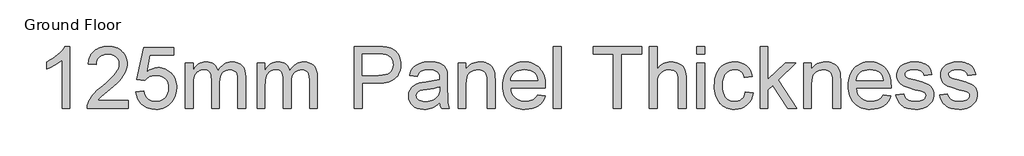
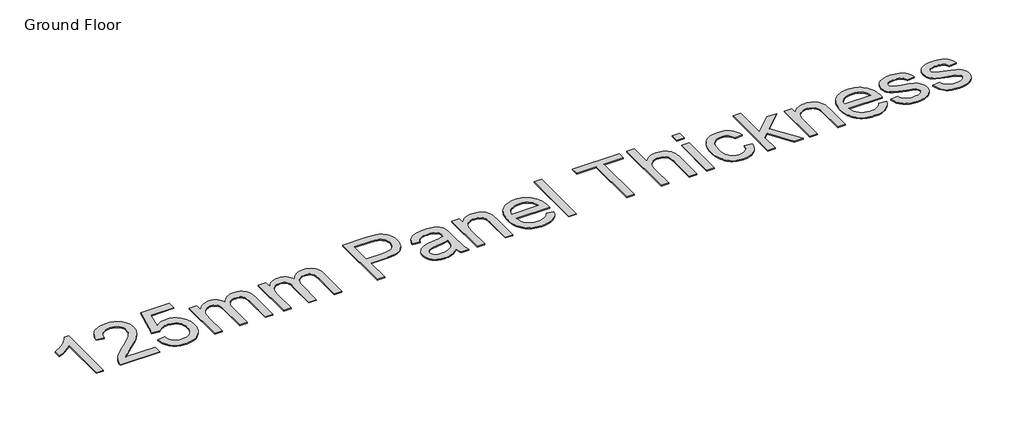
# One storey, part 9 of 12: 1 proxy.
"""IFC4 building model written with IfcOpenShell, lengths in millimetres."""

from ifc_helpers import new_model, si_unit, origin, origin_with_axes, place, context, project, spatial, polyline, outline, extrude, element, save

model = new_model("IFC4")

# Units and contexts
model_context = context("Model", 3, world=origin())
ifc_project = project(units=[si_unit("LENGTHUNIT", "METRE", prefix="MILLI")], contexts=[model_context])

# Site, building, storey
site = spatial("IfcSite", under=ifc_project)
building = spatial("IfcBuilding", under=site)
storey = spatial("IfcBuildingStorey", under=building, Name="Ground Floor", Elevation=0.0)

# Proxy
placement = place(None, origin())
element("IfcBuildingElementProxy", 1, Name="1200mm Arial", ObjectType="1200mm Arial", at=placement, inside=storey, context=model_context, shape_type="SweptSolid", body=[
    extrude(outline(polyline([(87210.8175764, 23010.3942503), (87060.1331111, 23010.3942503), (87060.1331111, 23949.8177131), (86997.22529, 23898.9396332), (86917.394897, 23848.1351297), (86833.5913785, 23803.7317729), (86758.7641807, 23772.0571331), (86758.7641807, 23914.5010416), (86819.9153653, 23945.1640059), (86877.1118185, 23978.8803908), (86930.3535403, 24015.6501962), (86979.6405306, 24055.4734222), (87023.5012615, 24096.5106587), (87060.4642049, 24136.9224959), (87090.529361, 24176.7089337), (87113.6967296, 24215.8699721), (87210.8175764, 24215.8699721), (87210.8175764, 23010.3942503)])), origin_with_axes(), (0.0, 0.0, 1.0), 20.0),
    extrude(outline(polyline([(88340.9510655, 23161.0787155), (88340.9510655, 23010.3942503), (87549.8576231, 23010.3942503), (87553.1685611, 23063.442834), (87566.0444309, 23114.2841257), (87582.470362, 23155.1834065), (87603.2005124, 23195.475682), (87628.2348822, 23235.1609523), (87657.5734713, 23274.2392172), (87692.9821133, 23314.2371871), (87736.2266419, 23356.6815723), (87846.2233584, 23448.9095885), (87935.6554715, 23525.8521078), (88008.8272003, 23593.3400598), (88065.738545, 23651.3734446), (88106.3895054, 23699.952262), (88134.8451777, 23743.5094903), (88155.170658, 23786.4781073), (88167.3659461, 23828.8581131), (88171.4310422, 23870.6495078), (88167.5958724, 23909.966896), (88156.090363, 23946.102105), (88136.914514, 23979.0551347), (88110.0683254, 24008.8259852), (88077.0417193, 24033.4832759), (88039.3246177, 24051.0956264), (87996.9170207, 24061.6630367), (87949.8189283, 24065.1855068), (87900.2008442, 24061.7458102), (87855.8250785, 24051.4267202), (87816.6916313, 24034.2282369), (87782.8005025, 24010.1503604), (87755.3840968, 23980.0024309), (87735.6748189, 23944.5937888), (87723.6726688, 23903.9244342), (87719.3776465, 23857.9943672), (87568.6931813, 23876.8299253), (87581.6518245, 23954.6185732), (87592.1111695, 23989.8294786), (87605.2238634, 24022.5847718), (87620.9899061, 24052.8844526), (87639.4092978, 24080.7285211), (87660.4820383, 24106.1169773), (87684.2081278, 24129.0498212), (87710.3300487, 24149.3982941), (87738.5902837, 24167.0336372), (87768.9888328, 24181.9558506), (87801.525696, 24194.1649343), (87873.0143647, 24210.4437126), (87953.0562898, 24215.8699721), (88033.8155848, 24209.8367073), (88070.863601, 24202.2951264), (88105.6905296, 24191.7369132), (88138.2963707, 24178.1620676), (88168.6811243, 24161.5705896), (88196.8447902, 24141.9624792), (88222.7873687, 24119.3377365), (88246.0674012, 24094.4781107), (88266.2434294, 24068.165351), (88283.3154532, 24040.3994574), (88297.2834727, 24011.1804299), (88308.1474879, 23980.5082686), (88315.9074987, 23948.3829734), (88320.5635052, 23914.8045443), (88322.1155074, 23879.7729813), (88320.4416443, 23843.58259), (88315.4200551, 23807.7048984), (88307.0507397, 23772.1399065), (88295.3336981, 23736.8876143), (88279.7263045, 23701.3318195), (88259.6859328, 23664.8563197), (88206.3062553, 23589.1462051), (88169.4720705, 23547.1616724), (88121.2151498, 23498.7575989), (87990.4331005, 23382.6908294), (87817.0871044, 23237.7453233), (87779.4895645, 23199.522384), (87749.1025117, 23161.0787155), (88340.9510655, 23161.0787155)])), origin_with_axes(), (0.0, 0.0, 1.0), 20.0),
    extrude(outline(polyline([(88491.6355308, 23330.5987389), (88642.319996, 23349.434297), (88653.577185, 23300.9934353), (88669.984722, 23258.9721144), (88691.5426069, 23223.3703343), (88718.2508398, 23194.1880951), (88750.0542383, 23171.4621848), (88786.8976201, 23155.2293918), (88828.7809852, 23145.4897159), (88875.7043337, 23142.2431573), (88933.093925, 23146.7589088), (88983.7144875, 23160.3061633), (89027.5660213, 23182.8849208), (89064.6485265, 23214.4951812), (89094.1342684, 23253.5734461), (89115.1955126, 23298.5562171), (89127.8322591, 23349.4434941), (89132.044508, 23406.2352771), (89128.0989736, 23459.9092602), (89116.2623704, 23507.6235549), (89096.5346984, 23549.3781614), (89068.9159576, 23585.1730795), (89033.3141775, 23613.8862693), (88989.6373876, 23634.3956905), (88937.885588, 23646.7013432), (88878.0587785, 23650.8032275), (88839.7714599, 23649.1661526), (88804.9606261, 23644.254928), (88773.6262771, 23636.0695536), (88745.768413, 23624.6100294), (88698.4955767, 23594.5172822), (88661.1555541, 23556.6254367), (88510.4710889, 23575.4609949), (88642.319996, 24197.0344139), (89226.2222987, 24197.0344139), (89226.2222987, 24046.3499487), (88764.1625128, 24046.3499487), (88699.7095872, 23714.3732362), (88752.8869296, 23752.4858109), (88807.351859, 23779.7090786), (88863.1043754, 23796.0430392), (88920.1444788, 23801.4876927), (88957.5833695, 23799.800034), (88993.5277397, 23794.7370581), (89027.9775893, 23786.2987648), (89060.9329183, 23774.4851542), (89092.3937267, 23759.2962264), (89122.3600144, 23740.7319812), (89150.8317816, 23718.7924187), (89177.8090282, 23693.4775389), (89202.3996403, 23665.5093102), (89223.7115041, 23635.6097011), (89241.7446197, 23603.7787114), (89256.4989869, 23570.0163413), (89267.9746059, 23534.3225907), (89276.1714766, 23496.6974597), (89281.0895991, 23457.1409482), (89282.7289732, 23415.6530562), (89276.8244672, 23337.5884968), (89269.4438346, 23300.5979622), (89259.1109491, 23264.9685909), (89245.8258106, 23230.7003831), (89229.588419, 23197.7933386), (89210.3987744, 23166.2474575), (89188.2568768, 23136.0627398), (89158.2561001, 23102.1946036), (89125.6433613, 23072.8422189), (89090.4186602, 23048.0055857), (89052.581997, 23027.684704), (89012.1333716, 23011.8795738), (88969.0727841, 23000.5901951), (88923.4002344, 22993.8165679), (88875.1157225, 22991.5586921), (88797.3546658, 22997.3620306), (88761.2953325, 23004.6162037), (88727.1167959, 23014.772046), (88694.819056, 23027.8295576), (88664.4021128, 23043.7887384), (88635.8659662, 23062.6495884), (88609.2106164, 23084.4121077), (88584.8729232, 23108.5704585), (88563.2897464, 23134.618803), (88544.461086, 23162.5571413), (88528.3869421, 23192.3854733), (88515.0673146, 23224.103799), (88504.5022035, 23257.7121186), (88491.6355308, 23330.5987389)])), origin_with_axes(), (0.0, 0.0, 1.0), 20.0),
    extrude(outline(polyline([(89452.2489966, 23010.3942503), (89452.2489966, 23895.6654835), (89602.9334618, 23895.6654835), (89602.9334618, 23749.9842134), (89623.9763119, 23785.2548997), (89648.2565236, 23816.9019483), (89675.7740968, 23844.9253593), (89706.5290316, 23869.3251326), (89740.0246873, 23889.0895928), (89775.7644231, 23903.2070644), (89813.7482391, 23911.6775473), (89853.9761353, 23914.5010416), (89897.9564278, 23911.622365), (89937.7796538, 23902.9863352), (89973.4458132, 23888.5929521), (90004.9549061, 23868.4422158), (90032.214962, 23843.1043434), (90055.1340103, 23813.1495519), (90073.712051, 23778.5778414), (90087.9490842, 23739.3892119), (90114.4457849, 23780.431047), (90142.8738661, 23816.0006374), (90173.2333278, 23846.0979831), (90205.5241699, 23870.7230842), (90239.7463925, 23889.8759406), (90275.8999956, 23903.5565523), (90313.9849791, 23911.7649193), (90354.0013432, 23914.5010416), (90414.3247933, 23909.9485019), (90467.2722095, 23896.2908828), (90512.8435916, 23873.5281844), (90551.0389398, 23841.6604066), (90567.2142512, 23822.2201424), (90581.2328545, 23800.3196674), (90602.7999365, 23749.1380848), (90615.7401857, 23688.1156588), (90620.0536021, 23617.2523895), (90620.0536021, 23010.3942503), (90469.3691368, 23010.3942503), (90469.3691368, 23552.5051584), (90465.8742579, 23627.66345), (90455.389621, 23678.3208007), (90446.9835174, 23696.5953388), (90435.7447225, 23713.0120729), (90421.6732362, 23727.5710028), (90404.7690585, 23740.2721287), (90385.6483918, 23750.5728246), (90364.9274384, 23757.9304645), (90318.6846716, 23763.8165764), (90275.982769, 23760.0457859), (90237.0516569, 23748.7334146), (90201.8913352, 23729.8794623), (90170.501804, 23703.4839292), (90144.6856849, 23668.7742629), (90126.2455999, 23624.9779114), (90115.1815489, 23572.0948746), (90111.4935319, 23510.1251525), (90111.4935319, 23010.3942503), (89960.8090667, 23010.3942503), (89960.8090667, 23569.2805773), (89958.6293659, 23614.9347329), (89952.0902634, 23654.4820474), (89941.1917593, 23687.9225208), (89925.9338536, 23715.256153), (89905.7095409, 23736.5013382), (89879.911816, 23751.6764705), (89848.5406788, 23760.7815499), (89811.5961295, 23763.8165764), (89782.000023, 23761.7932254), (89753.5443506, 23755.7231725), (89726.2291125, 23745.6064176), (89700.0543085, 23731.4429608), (89676.2155552, 23713.3799548), (89655.9084691, 23691.5645525), (89639.1330501, 23665.9967539), (89625.8892983, 23636.6765589), (89615.8461198, 23602.040469), (89608.6724209, 23560.5249859), (89604.3682016, 23512.1301094), (89602.9334618, 23456.8558396), (89602.9334618, 23010.3942503), (89452.2489966, 23010.3942503)])), origin_with_axes(), (0.0, 0.0, 1.0), 20.0),
    extrude(outline(polyline([(90846.0802999, 23010.3942503), (90846.0802999, 23895.6654835), (90996.7647651, 23895.6654835), (90996.7647651, 23749.9842134), (91017.8076152, 23785.2548997), (91042.0878269, 23816.9019483), (91069.6054002, 23844.9253593), (91100.360335, 23869.3251326), (91133.8559906, 23889.0895928), (91169.5957265, 23903.2070644), (91207.5795425, 23911.6775473), (91247.8074386, 23914.5010416), (91291.7877312, 23911.622365), (91331.6109571, 23902.9863352), (91367.2771166, 23888.5929521), (91398.7862095, 23868.4422158), (91426.0462653, 23843.1043434), (91448.9653136, 23813.1495519), (91467.5433544, 23778.5778414), (91481.7803876, 23739.3892119), (91508.2770883, 23780.431047), (91536.7051694, 23816.0006374), (91567.0646311, 23846.0979831), (91599.3554732, 23870.7230842), (91633.5776958, 23889.8759406), (91669.7312989, 23903.5565523), (91707.8162825, 23911.7649193), (91747.8326465, 23914.5010416), (91808.1560966, 23909.9485019), (91861.1035128, 23896.2908828), (91906.6748949, 23873.5281844), (91944.8702431, 23841.6604066), (91961.0455546, 23822.2201424), (91975.0641578, 23800.3196674), (91996.6312398, 23749.1380848), (92009.571489, 23688.1156588), (92013.8849054, 23617.2523895), (92013.8849054, 23010.3942503), (91863.2004402, 23010.3942503), (91863.2004402, 23552.5051584), (91859.7055612, 23627.66345), (91849.2209243, 23678.3208007), (91840.8148208, 23696.5953388), (91829.5760258, 23713.0120729), (91815.5045395, 23727.5710028), (91798.6003618, 23740.2721287), (91779.4796951, 23750.5728246), (91758.7587417, 23757.9304645), (91712.5159749, 23763.8165764), (91669.8140724, 23760.0457859), (91630.8829602, 23748.7334146), (91595.7226385, 23729.8794623), (91564.3331073, 23703.4839292), (91538.5169883, 23668.7742629), (91520.0769033, 23624.9779114), (91509.0128523, 23572.0948746), (91505.3248353, 23510.1251525), (91505.3248353, 23010.3942503), (91354.64037, 23010.3942503), (91354.64037, 23569.2805773), (91352.4606692, 23614.9347329), (91345.9215667, 23654.4820474), (91335.0230626, 23687.9225208), (91319.7651569, 23715.256153), (91299.5408442, 23736.5013382), (91273.7431193, 23751.6764705), (91242.3719822, 23760.7815499), (91205.4274328, 23763.8165764), (91175.8313263, 23761.7932254), (91147.3756539, 23755.7231725), (91120.0604158, 23745.6064176), (91093.8856119, 23731.4429608), (91070.0468586, 23713.3799548), (91049.7397724, 23691.5645525), (91032.9643534, 23665.9967539), (91019.7206016, 23636.6765589), (91009.6774232, 23602.040469), (91002.5037242, 23560.5249859), (90998.1995049, 23512.1301094), (90996.7647651, 23456.8558396), (90996.7647651, 23010.3942503), (90846.0802999, 23010.3942503)])), origin_with_axes(), (0.0, 0.0, 1.0), 20.0),
    extrude(outline(polyline([(92729.6361152, 23010.3942503), (92729.6361152, 24215.8699721), (93176.3920101, 24215.8699721), (93280.4290384, 24213.0004925), (93356.507035, 24204.3920538), (93398.4363854, 24195.3513538), (93436.8156745, 24182.9445335), (93471.6449024, 24167.1715929), (93502.9240691, 24148.0325321), (93530.9842682, 24125.1318779), (93556.1565938, 24098.0741572), (93578.4410456, 24066.8593699), (93597.8376238, 24031.4875161), (93613.546185, 23993.126621), (93624.7665859, 23952.9447101), (93631.4988264, 23910.9417833), (93633.7429066, 23867.1178406), (93627.6820507, 23793.1183773), (93620.1059808, 23758.3397332), (93609.4994831, 23725.0418141), (93595.8625574, 23693.22462), (93579.1952037, 23662.888151), (93559.4974221, 23634.032407), (93536.7692126, 23606.657388), (93510.0862717, 23581.6873976), (93478.5242957, 23560.0467393), (93442.0832849, 23541.7354129), (93400.763239, 23526.7534187), (93354.5641582, 23515.1007565), (93303.4860424, 23506.7774264), (93247.5288917, 23501.7834283), (93186.692706, 23500.1187622), (92880.3205804, 23500.1187622), (92880.3205804, 23010.3942503), (92729.6361152, 23010.3942503)]), holes=[polyline([(92880.3205804, 23650.8032275), (93195.5218739, 23650.8032275), (93267.9946269, 23654.2613182), (93329.1366145, 23664.6355905), (93378.9478367, 23681.9260443), (93417.4282934, 23706.1326795), (93446.1414831, 23736.6117028), (93466.6509043, 23772.7193207), (93478.9565571, 23814.455533), (93483.0584413, 23861.8203399), (93480.6396172, 23896.9898586), (93473.3831449, 23929.510627), (93461.2890243, 23959.382645), (93444.3572554, 23986.6059127), (93423.4891493, 24010.2975132), (93399.5860166, 24029.5745297), (93372.6478575, 24044.4369623), (93342.674672, 24054.884811), (93284.5493167, 24062.6103329), (93191.9902067, 24065.1855068), (92880.3205804, 24065.1855068), (92880.3205804, 23650.8032275)])]), origin_with_axes(), (0.0, 0.0, 1.0), 20.0),
    extrude(outline(polyline([(94387.1652327, 23123.4075992), (94351.4346939, 23089.8751553), (94315.1707262, 23061.6770004), (94278.3733296, 23038.8131344), (94241.0425042, 23021.2835573), (94202.7551855, 23008.2789288), (94163.0883094, 22998.9899084), (94122.0418758, 22993.4164962), (94079.6158847, 22991.5586921), (94012.5234058, 22996.0284584), (93953.6898778, 23009.4377571), (93903.1153005, 23031.7865883), (93860.799674, 23063.074952), (93827.3867918, 23101.3162854), (93803.5204473, 23144.5240257), (93789.2006407, 23192.698173), (93784.4273718, 23245.8387272), (93786.2299936, 23277.7892785), (93791.6378589, 23308.30509), (93800.6509678, 23337.3861617), (93813.2693202, 23365.0324936), (93828.8215315, 23390.6370805), (93846.6362172, 23413.592917), (93866.713377, 23433.9000031), (93889.0530112, 23451.5583389), (93938.9010216, 23480.2531345), (93994.5615674, 23501.001679), (94048.7873735, 23512.5531737), (94124.9389465, 23523.6632099), (94279.0079261, 23547.5019632), (94338.4944447, 23560.9664442), (94386.2823159, 23575.4609949), (94387.1652327, 23609.0118328), (94384.5716646, 23645.5425149), (94376.7909604, 23676.2606615), (94363.8231201, 23701.1662726), (94345.6681436, 23720.2593482), (94314.2878094, 23739.3156355), (94276.0648701, 23752.9272693), (94230.9993257, 23761.0942496), (94179.0911762, 23763.8165764), (94130.8250584, 23762.0047576), (94089.3279694, 23756.5693011), (94054.599909, 23747.5102069), (94026.6408774, 23734.8274752), (94003.6666468, 23717.5278243), (93983.8929896, 23694.6179731), (93967.3199057, 23666.0979214), (93953.9473952, 23631.9676693), (93803.2629299, 23650.8032275), (93814.7316511, 23694.2133029), (93829.4193398, 23733.2087944), (93847.3259959, 23767.7897019), (93868.4516195, 23797.9560255), (93893.7067184, 23824.3147705), (93924.0018007, 23847.4729421), (93959.3368664, 23867.4305403), (93999.7119154, 23884.1875652), (94044.3084102, 23897.4497111), (94092.3078135, 23906.9226725), (94143.7101253, 23912.6064493), (94198.5153455, 23914.5010416), (94252.0881611, 23912.8271785), (94300.38187, 23907.8055893), (94343.3964723, 23899.4362739), (94381.131968, 23887.7192324), (94413.9010567, 23873.4730021), (94442.0164382, 23857.5161206), (94465.4781124, 23839.8485877), (94484.2860794, 23820.4704036), (94499.5347881, 23798.9033217), (94512.3186874, 23774.6690952), (94530.492058, 23718.199209), (94536.0102879, 23666.1071185), (94537.8496979, 23586.3503019), (94537.8496979, 23398.8776372), (94539.7626843, 23235.5748195), (94545.5016434, 23137.0928094), (94556.8324088, 23072.3823665), (94575.5208142, 23010.3942503), (94424.836349, 23010.3942503), (94411.4454444, 23035.5573787), (94400.7032901, 23062.7806464), (94387.1652327, 23123.4075992)]), holes=[polyline([(94387.1652327, 23424.7765296), (94341.6214417, 23411.7351129), (94285.9241076, 23399.6869776), (94144.0688103, 23378.570551), (94065.8938863, 23367.0190564), (94014.4271952, 23354.1431866), (93980.6924162, 23337.441344), (93955.7132287, 23314.4119311), (93940.2621849, 23286.8207814), (93935.111837, 23256.4337286), (93937.9169372, 23233.0180396), (93946.3322379, 23211.6257016), (93960.3577389, 23192.2567146), (93979.9934404, 23174.9110785), (94005.0554013, 23160.618863), (94035.3596807, 23150.4101376), (94070.9062785, 23144.2849024), (94111.6951947, 23142.2431573), (94153.3394365, 23144.4964346), (94192.6292336, 23151.2562662), (94229.5645859, 23162.5226523), (94264.1454935, 23178.2955929), (94295.3418867, 23197.2691068), (94322.1236959, 23218.1372129), (94344.4909212, 23240.8999114), (94362.4435626, 23265.5572021), (94372.8730172, 23287.6301218), (94380.3226276, 23314.4119311), (94384.7923938, 23345.9026299), (94386.2823159, 23382.1022182), (94387.1652327, 23424.7765296)])]), origin_with_axes(), (0.0, 0.0, 1.0), 20.0),
    extrude(outline(polyline([(94745.0408376, 23010.3942503), (94745.0408376, 23895.6654835), (94895.7253028, 23895.6654835), (94895.7253028, 23772.0571331), (94920.5849286, 23805.4424241), (94948.0749107, 23834.3763431), (94978.1952491, 23858.8588898), (95010.9459437, 23878.8900645), (95046.3269946, 23894.469867), (95084.3384017, 23905.5982973), (95124.9801652, 23912.2753555), (95168.2522848, 23914.5010416), (95206.1717215, 23912.7076169), (95242.5276597, 23907.3273427), (95277.3200994, 23898.3602191), (95310.5490406, 23885.806246), (95340.9544875, 23870.3368081), (95367.2764442, 23852.62329), (95389.5149108, 23832.6656918), (95407.6698873, 23810.4640134), (95435.0770959, 23759.4387806), (95452.8457963, 23699.6579564), (95458.8054846, 23642.4890944), (95460.7920474, 23553.9766863), (95460.7920474, 23010.3942503), (95310.1075822, 23010.3942503), (95310.1075822, 23533.6696002), (95305.7665746, 23611.5870068), (95300.3403152, 23642.1028183), (95292.743552, 23666.9900353), (95282.3968709, 23687.9501119), (95268.7208577, 23706.6845025), (95251.7155125, 23723.1932071), (95231.3808352, 23737.4762255), (95208.4158017, 23749.000129), (95183.5193876, 23757.2314887), (95156.6915931, 23762.1703045), (95127.9324182, 23763.8165764), (95082.177095, 23760.1193623), (95039.6775275, 23749.0277202), (95000.4337157, 23730.5416499), (94964.4456595, 23704.6611516), (94948.3393259, 23688.2122279), (94934.3805034, 23668.4431691), (94922.5691921, 23645.3539754), (94912.905392, 23618.9446467), (94900.0203251, 23556.1655842), (94895.7253028, 23480.1059817), (94895.7253028, 23010.3942503), (94745.0408376, 23010.3942503)])), origin_with_axes(), (0.0, 0.0, 1.0), 20.0),
    extrude(outline(polyline([(96287.7907726, 23274.0920644), (96435.5321818, 23255.2565063), (96412.879848, 23196.0826873), (96382.2996571, 23143.9354145), (96343.7916093, 23098.8146878), (96297.3557044, 23060.7205072), (96243.4701892, 23030.4622131), (96182.6133101, 23008.8491459), (96114.7850673, 22995.8813056), (96039.9854606, 22991.5586921), (95991.9630647, 22993.423394), (95946.4882515, 22999.0174996), (95903.5610212, 23008.3410089), (95863.1813737, 23021.3939219), (95825.349309, 23038.1762387), (95790.0648272, 23058.6879592), (95757.3279281, 23082.9290834), (95727.1386119, 23110.8996113), (95700.0303074, 23142.2362595), (95676.5364435, 23176.5757445), (95656.6570202, 23213.9180663), (95640.3920374, 23254.2632249), (95627.7414953, 23297.6112202), (95618.7053938, 23343.9620523), (95613.2837329, 23393.3157213), (95611.4765126, 23445.672227), (95613.302127, 23499.8106611), (95618.7789702, 23550.8312953), (95627.9070422, 23598.7341296), (95640.686343, 23643.519164), (95657.1168726, 23685.1863984), (95677.1986311, 23723.735833), (95700.9316183, 23759.1674677), (95728.3158343, 23791.4813024), (95758.6109166, 23820.3140538), (95791.0765027, 23845.3024383), (95825.7125925, 23866.446456), (95862.5191861, 23883.7461068), (95901.4962835, 23897.2013908), (95942.6438847, 23906.8123079), (95985.9619896, 23912.5788582), (96031.4505983, 23914.5010416), (96075.4515842, 23912.5834567), (96117.3970294, 23906.830702), (96157.286934, 23897.2427775), (96195.121298, 23883.8196832), (96230.9001213, 23866.5614191), (96264.6234039, 23845.4679852), (96296.2911459, 23820.5393815), (96325.9033473, 23791.775608), (96352.7012513, 23759.5353497), (96375.9261015, 23724.1772914), (96395.5778979, 23685.7014332), (96411.6566403, 23644.1077752), (96424.1623289, 23599.3963172), (96433.0949636, 23551.5670593), (96438.4545444, 23500.6200015), (96440.2410714, 23446.5551437), (96439.3581546, 23405.9409715), (95762.1609778, 23405.9409715), (95770.8889782, 23345.8106594), (95788.2438113, 23293.1483518), (95814.2254772, 23247.9540486), (95848.8339759, 23210.22775), (95890.156321, 23180.4844907), (95936.2795262, 23159.2393055), (95987.2035913, 23146.4921944), (96042.9285166, 23142.2431573), (96084.6095466, 23144.211326), (96123.1267915, 23150.115832), (96158.4802513, 23159.9566754), (96190.6699258, 23173.7338561), (96219.6958152, 23191.8152562), (96245.5579195, 23214.5687576), (96268.2562386, 23241.9943603), (96287.7907726, 23274.0920644)]), holes=[polyline([(95762.1609778, 23556.6254367), (96289.5566061, 23556.6254367), (96281.8126901, 23599.2629599), (96269.1759436, 23636.2351005), (96251.6463665, 23667.5418582), (96229.2239589, 23693.1832333), (96188.1315401, 23724.0853209), (96141.3737385, 23746.1582406), (96088.9505542, 23759.4019924), (96030.8619871, 23763.8165764), (95977.8777828, 23760.2941063), (95929.2897683, 23749.726696), (95885.0979436, 23732.1143455), (95845.3023088, 23707.4570547), (95811.9078206, 23676.895258), (95786.9194361, 23641.5693894), (95770.3371552, 23601.479449), (95762.1609778, 23556.6254367)])]), origin_with_axes(), (0.0, 0.0, 1.0), 20.0),
    extrude(outline(polyline([(96590.9255366, 23010.3942503), (96590.9255366, 24215.8699721), (96741.6100018, 24215.8699721), (96741.6100018, 23010.3942503), (96590.9255366, 23010.3942503)])), origin_with_axes(), (0.0, 0.0, 1.0), 20.0),
    extrude(outline(polyline([(97758.7301421, 23010.3942503), (97758.7301421, 24065.1855068), (97363.1834209, 24065.1855068), (97363.1834209, 24215.8699721), (98304.9613285, 24215.8699721), (98304.9613285, 24065.1855068), (97909.4146073, 24065.1855068), (97909.4146073, 23010.3942503), (97758.7301421, 23010.3942503)])), origin_with_axes(), (0.0, 0.0, 1.0), 20.0),
    extrude(outline(polyline([(98455.6457937, 23010.3942503), (98455.6457937, 24215.8699721), (98606.330259, 24215.8699721), (98606.330259, 23772.6457443), (98633.1534549, 23805.8930796), (98661.6781051, 23834.7074369), (98691.9042096, 23859.0888161), (98723.8317682, 23879.0372173), (98757.4607811, 23894.5526404), (98792.7912482, 23905.6350855), (98829.8231696, 23912.2845526), (98868.5565451, 23914.5010416), (98915.6638346, 23912.0822175), (98959.5705507, 23904.8257451), (99000.2766935, 23892.7316245), (99037.7822629, 23875.7998557), (99071.1307658, 23854.6006557), (99099.3657089, 23829.7042417), (99122.4870923, 23801.1106136), (99140.494916, 23768.8197715), (99154.0145793, 23730.8359555), (99163.6714816, 23685.1634058), (99169.4656231, 23631.8021224), (99171.3970035, 23570.7521053), (99171.3970035, 23010.3942503), (99020.7125383, 23010.3942503), (99020.7125383, 23555.1539087), (99017.7143001, 23606.0319887), (99008.7195853, 23649.4788523), (98993.728394, 23685.4944996), (98972.7407262, 23714.0789306), (98946.2532225, 23735.8391507), (98914.7625237, 23751.3821649), (98878.2686298, 23760.7079735), (98836.7715407, 23763.8165764), (98804.4439104, 23761.719649), (98773.0911674, 23755.4288669), (98742.7133116, 23744.94423), (98713.3103432, 23730.2657384), (98686.4733516, 23712.0003974), (98663.7934266, 23690.7552121), (98645.2705681, 23666.5301828), (98630.9047762, 23639.3253092), (98620.1534249, 23607.8897927), (98612.4738883, 23570.9728345), (98607.8661663, 23528.5744346), (98606.330259, 23480.6945929), (98606.330259, 23010.3942503), (98455.6457937, 23010.3942503)])), origin_with_axes(), (0.0, 0.0, 1.0), 20.0),
    extrude(outline(polyline([(99378.5881432, 23010.3942503), (99378.5881432, 23895.6654835), (99529.2726085, 23895.6654835), (99529.2726085, 23010.3942503), (99378.5881432, 23010.3942503)])), origin_with_axes(), (0.0, 0.0, 1.0), 20.0),
    extrude(outline(polyline([(99378.5881432, 24065.1855068), (99378.5881432, 24215.8699721), (99529.2726085, 24215.8699721), (99529.2726085, 24065.1855068), (99378.5881432, 24065.1855068)])), origin_with_axes(), (0.0, 0.0, 1.0), 20.0),
    extrude(outline(polyline([(100320.3660509, 23330.5987389), (100471.0505161, 23311.7631807), (100454.6613732, 23240.6607881), (100429.0383923, 23177.7437699), (100394.1815732, 23123.012126), (100350.0909161, 23076.4658566), (100298.624225, 23039.3189721), (100241.6393039, 23012.7854832), (100179.1361529, 22996.8653899), (100111.114772, 22991.5586921), (100067.7667767, 22993.4095984), (100026.6030807, 22998.9623173), (99987.623684, 23008.2168487), (99950.8285867, 23021.1731927), (99916.2177888, 23037.8313493), (99883.7912902, 23058.1913185), (99853.5490909, 23082.2531002), (99825.491191, 23110.0166946), (99800.2108001, 23141.2383796), (99778.301128, 23175.6744336), (99759.7621747, 23213.3248566), (99744.5939402, 23254.1896485), (99732.7964245, 23298.2688093), (99724.3696275, 23345.562339), (99719.3135494, 23396.0702377), (99717.62819, 23449.7925053), (99720.5068666, 23519.073882), (99729.1428964, 23583.8854925), (99743.5362795, 23644.2273368), (99763.6870158, 23700.0994148), (99789.733061, 23750.3796865), (99821.812371, 23793.9461118), (99859.9249457, 23830.7986907), (99904.0707851, 23860.9374231), (99952.2541295, 23884.3715062), (100002.4792189, 23901.110137), (100054.7460533, 23911.1533155), (100109.0546329, 23914.5010416), (100175.9079884, 23909.9025167), (100236.3785914, 23896.1069419), (100290.4664417, 23873.1143172), (100338.1715395, 23840.9246426), (100378.6845442, 23800.2736821), (100411.1961155, 23751.8971997), (100435.7062534, 23695.7951955), (100452.214958, 23631.9676693), (100301.5304927, 23613.1321112), (100289.7674659, 23648.329221), (100274.1968605, 23678.8726237), (100254.8186764, 23704.7623191), (100231.6329136, 23725.9983073), (100205.2281834, 23742.5438), (100176.193097, 23754.3620091), (100144.5276542, 23761.4529346), (100110.2318552, 23763.8165764), (100059.0318786, 23759.1628691), (100012.8534911, 23745.2017474), (99971.6966929, 23721.9332112), (99935.5614839, 23689.3572606), (99919.8000397, 23669.3904653), (99906.1401214, 23646.7197373), (99885.1248624, 23593.2664834), (99872.515707, 23528.9974989), (99868.3126552, 23453.9127836), (99872.4237365, 23377.6968313), (99884.7569804, 23312.6828857), (99905.3123869, 23258.8709469), (99918.6734011, 23236.16573), (99934.0899559, 23216.2610148), (99969.507795, 23183.8782021), (100009.9840116, 23160.7476217), (100055.5186055, 23146.8692734), (100106.1115769, 23142.2431573), (100146.882099, 23145.131031), (100184.1393481, 23153.794652), (100217.8833241, 23168.2340203), (100248.114027, 23188.4491359), (100273.9853283, 23214.6607281), (100294.6510994, 23247.089526), (100310.1113403, 23285.7355296), (100320.3660509, 23330.5987389)])), origin_with_axes(), (0.0, 0.0, 1.0), 20.0),
    extrude(outline(polyline([(100602.8994232, 23010.3942503), (100602.8994232, 24215.8699721), (100753.5838884, 24215.8699721), (100753.5838884, 23568.103355), (101091.4467128, 23895.6654835), (101299.8150748, 23895.6654835), (100957.8319721, 23563.9830766), (101318.650633, 23010.3942503), (101142.6558865, 23010.3942503), (100849.8218183, 23459.2102844), (100753.5838884, 23365.9154104), (100753.5838884, 23010.3942503), (100602.8994232, 23010.3942503)])), origin_with_axes(), (0.0, 0.0, 1.0), 20.0),
    extrude(outline(polyline([(101450.4995401, 23010.3942503), (101450.4995401, 23895.6654835), (101601.1840053, 23895.6654835), (101601.1840053, 23772.0571331), (101626.0436311, 23805.4424241), (101653.5336132, 23834.3763431), (101683.6539516, 23858.8588898), (101716.4046462, 23878.8900645), (101751.7856971, 23894.469867), (101789.7971042, 23905.5982973), (101830.4388676, 23912.2753555), (101873.7109873, 23914.5010416), (101911.630424, 23912.7076169), (101947.9863621, 23907.3273427), (101982.7788018, 23898.3602191), (102016.0077431, 23885.806246), (102046.41319, 23870.3368081), (102072.7351467, 23852.62329), (102094.9736133, 23832.6656918), (102113.1285898, 23810.4640134), (102140.5357984, 23759.4387806), (102158.3044988, 23699.6579564), (102164.2641871, 23642.4890944), (102166.2507499, 23553.9766863), (102166.2507499, 23010.3942503), (102015.5662847, 23010.3942503), (102015.5662847, 23533.6696002), (102011.2252771, 23611.5870068), (102005.7990177, 23642.1028183), (101998.2022545, 23666.9900353), (101987.8555734, 23687.9501119), (101974.1795602, 23706.6845025), (101957.174215, 23723.1932071), (101936.8395377, 23737.4762255), (101913.8745041, 23749.000129), (101888.9780901, 23757.2314887), (101862.1502956, 23762.1703045), (101833.3911206, 23763.8165764), (101787.6357975, 23760.1193623), (101745.13623, 23749.0277202), (101705.8924182, 23730.5416499), (101669.904362, 23704.6611516), (101653.7980284, 23688.2122279), (101639.8392059, 23668.4431691), (101628.0278946, 23645.3539754), (101618.3640945, 23618.9446467), (101605.4790276, 23556.1655842), (101601.1840053, 23480.1059817), (101601.1840053, 23010.3942503), (101450.4995401, 23010.3942503)])), origin_with_axes(), (0.0, 0.0, 1.0), 20.0),
    extrude(outline(polyline([(102993.249475, 23274.0920644), (103140.9908843, 23255.2565063), (103118.3385505, 23196.0826873), (103087.7583596, 23143.9354145), (103049.2503118, 23098.8146878), (103002.8144069, 23060.7205072), (102948.9288917, 23030.4622131), (102888.0720126, 23008.8491459), (102820.2437698, 22995.8813056), (102745.4441631, 22991.5586921), (102697.4217671, 22993.423394), (102651.946954, 22999.0174996), (102609.0197237, 23008.3410089), (102568.6400762, 23021.3939219), (102530.8080115, 23038.1762387), (102495.5235297, 23058.6879592), (102462.7866306, 23082.9290834), (102432.5973144, 23110.8996113), (102405.4890099, 23142.2362595), (102381.995146, 23176.5757445), (102362.1157226, 23213.9180663), (102345.8507399, 23254.2632249), (102333.2001978, 23297.6112202), (102324.1640963, 23343.9620523), (102318.7424354, 23393.3157213), (102316.9352151, 23445.672227), (102318.7608295, 23499.8106611), (102324.2376727, 23550.8312953), (102333.3657447, 23598.7341296), (102346.1450455, 23643.519164), (102362.5755751, 23685.1863984), (102382.6573335, 23723.735833), (102406.3903208, 23759.1674677), (102433.7745368, 23791.4813024), (102464.0696191, 23820.3140538), (102496.5352052, 23845.3024383), (102531.171295, 23866.446456), (102567.9778886, 23883.7461068), (102606.954986, 23897.2013908), (102648.1025872, 23906.8123079), (102691.4206921, 23912.5788582), (102736.9093008, 23914.5010416), (102780.9102867, 23912.5834567), (102822.8557319, 23906.830702), (102862.7456365, 23897.2427775), (102900.5800005, 23883.8196832), (102936.3588237, 23866.5614191), (102970.0821064, 23845.4679852), (103001.7498484, 23820.5393815), (103031.3620497, 23791.775608), (103058.1599538, 23759.5353497), (103081.384804, 23724.1772914), (103101.0366004, 23685.7014332), (103117.1153428, 23644.1077752), (103129.6210314, 23599.3963172), (103138.5536661, 23551.5670593), (103143.9132469, 23500.6200015), (103145.6997738, 23446.5551437), (103144.8168571, 23405.9409715), (102467.6196803, 23405.9409715), (102476.3476807, 23345.8106594), (102493.7025138, 23293.1483518), (102519.6841797, 23247.9540486), (102554.2926784, 23210.22775), (102595.6150235, 23180.4844907), (102641.7382286, 23159.2393055), (102692.6622938, 23146.4921944), (102748.3872191, 23142.2431573), (102790.0682491, 23144.211326), (102828.585494, 23150.115832), (102863.9389537, 23159.9566754), (102896.1286283, 23173.7338561), (102925.1545177, 23191.8152562), (102951.016622, 23214.5687576), (102973.7149411, 23241.9943603), (102993.249475, 23274.0920644)]), holes=[polyline([(102467.6196803, 23556.6254367), (102995.0153086, 23556.6254367), (102987.2713926, 23599.2629599), (102974.6346461, 23636.2351005), (102957.105069, 23667.5418582), (102934.6826614, 23693.1832333), (102893.5902425, 23724.0853209), (102846.832441, 23746.1582406), (102794.4092566, 23759.4019924), (102736.3206896, 23763.8165764), (102683.3364853, 23760.2941063), (102634.7484707, 23749.726696), (102590.5566461, 23732.1143455), (102550.7610112, 23707.4570547), (102517.3665231, 23676.895258), (102492.3781386, 23641.5693894), (102475.7958577, 23601.479449), (102467.6196803, 23556.6254367)])]), origin_with_axes(), (0.0, 0.0, 1.0), 20.0),
    extrude(outline(polyline([(103239.8775646, 23274.0920644), (103390.5620298, 23292.9276226), (103399.6671092, 23258.5674442), (103414.3272067, 23228.474697), (103434.5423224, 23202.6493809), (103460.3124561, 23181.091496), (103491.7111844, 23164.0953478), (103528.8120836, 23151.955242), (103571.6151538, 23144.6711785), (103620.1203948, 23142.2431573), (103668.5704536, 23144.4688434), (103710.32506, 23151.1459016), (103745.3842142, 23162.274332), (103773.747916, 23177.8541345), (103795.6368947, 23196.4321752), (103811.2718795, 23216.5553204), (103820.6528704, 23238.2235699), (103823.7798674, 23261.4369238), (103820.6344763, 23281.7807981), (103811.1983031, 23299.8438041), (103795.4713478, 23315.6259417), (103773.4536104, 23329.1272109), (103717.0205124, 23348.2570746), (103618.3545612, 23372.0958279), (103480.8402714, 23411.8638716), (103391.4449466, 23445.8193798), (103360.7543912, 23462.8431191), (103334.0185672, 23482.8650967), (103311.2374746, 23505.8853125), (103292.4111135, 23531.9037666), (103277.6682426, 23560.1387098), (103267.1376205, 23589.8083927), (103260.8192472, 23620.9128154), (103258.7131228, 23653.4519778), (103260.4053799, 23683.2044342), (103265.4821515, 23711.8348505), (103273.9434374, 23739.3432267), (103285.7892376, 23765.7295628), (103300.5596997, 23790.4604299), (103317.7949712, 23813.0023991), (103337.495052, 23833.3554705), (103359.6599422, 23851.519644), (103401.2673959, 23875.7630675), (103455.4564138, 23896.1069419), (103518.1067176, 23909.9025167), (103585.0980289, 23914.5010416), (103635.7369855, 23912.6524346), (103683.1753688, 23907.1066135), (103727.4131787, 23897.8635784), (103768.4504153, 23884.9233292), (103805.3121912, 23868.8284919), (103837.0236192, 23850.1216925), (103863.5846992, 23828.8029308), (103884.9954313, 23804.872207), (103902.3594615, 23777.4925896), (103916.7804357, 23745.8271468), (103928.258354, 23709.8758788), (103936.7932163, 23669.6387856), (103786.108751, 23650.8032275), (103778.9258551, 23675.975553), (103767.0892519, 23698.2232166), (103750.5989415, 23717.5462184), (103729.4549238, 23733.9445584), (103703.5652284, 23747.0135663), (103672.8378847, 23756.3485719), (103637.2728928, 23761.9495753), (103596.8702527, 23763.8165764), (103550.0020865, 23762.0323487), (103510.3444075, 23756.6796657), (103477.8972155, 23747.7585273), (103452.6605106, 23735.2689336), (103433.732982, 23720.406501), (103420.2133186, 23704.366846), (103412.1015206, 23687.1499686), (103409.397588, 23668.7558688), (103413.8857483, 23645.5793031), (103427.3502293, 23624.904335), (103450.3796422, 23606.4366588), (103483.5625982, 23591.6478026), (103613.3513661, 23559.5684927), (103746.4878602, 23520.2051192), (103834.5220216, 23488.640844), (103865.4976856, 23473.2449825), (103892.9416824, 23454.722124), (103916.8540121, 23433.0722686), (103937.2346747, 23408.2954162), (103953.52265, 23380.3547787), (103965.1569181, 23349.2135678), (103972.137479, 23314.8717836), (103974.4643326, 23277.329426), (103971.7328088, 23239.6215215), (103963.5382373, 23203.0172629), (103949.8806182, 23167.5166504), (103930.7599515, 23133.1196839), (103906.4889369, 23101.1967237), (103877.380274, 23073.1181304), (103843.4339629, 23048.883904), (103804.6500036, 23028.4940444), (103762.0860568, 23012.3348278), (103716.7997832, 23000.7925302), (103668.7911828, 22993.8671516), (103618.0602556, 22991.5586921), (103536.9606698, 22996.0100643), (103466.1249916, 23009.3641807), (103405.5532211, 23031.6210414), (103379.1163013, 23046.0880008), (103355.2453583, 23062.7806464), (103314.1529394, 23102.6958429), (103281.2275009, 23151.219478), (103256.4690426, 23208.3515519), (103239.8775646, 23274.0920644)])), origin_with_axes(), (0.0, 0.0, 1.0), 20.0),
    extrude(outline(polyline([(104087.4776815, 23274.0920644), (104238.1621467, 23292.9276226), (104247.2672261, 23258.5674442), (104261.9273236, 23228.474697), (104282.1424392, 23202.6493809), (104307.912573, 23181.091496), (104339.3113013, 23164.0953478), (104376.4122005, 23151.955242), (104419.2152706, 23144.6711785), (104467.7205117, 23142.2431573), (104516.1705705, 23144.4688434), (104557.9251769, 23151.1459016), (104592.9843311, 23162.274332), (104621.3480329, 23177.8541345), (104643.2370116, 23196.4321752), (104658.8719964, 23216.5553204), (104668.2529873, 23238.2235699), (104671.3799842, 23261.4369238), (104668.2345932, 23281.7807981), (104658.79842, 23299.8438041), (104643.0714647, 23315.6259417), (104621.0537273, 23329.1272109), (104564.6206292, 23348.2570746), (104465.9546781, 23372.0958279), (104328.4403883, 23411.8638716), (104239.0450635, 23445.8193798), (104208.3545081, 23462.8431191), (104181.6186841, 23482.8650967), (104158.8375915, 23505.8853125), (104140.0112304, 23531.9037666), (104125.2683594, 23560.1387098), (104114.7377373, 23589.8083927), (104108.4193641, 23620.9128154), (104106.3132396, 23653.4519778), (104108.0054968, 23683.2044342), (104113.0822684, 23711.8348505), (104121.5435542, 23739.3432267), (104133.3893545, 23765.7295628), (104148.1598166, 23790.4604299), (104165.3950881, 23813.0023991), (104185.0951689, 23833.3554705), (104207.2600591, 23851.519644), (104248.8675128, 23875.7630675), (104303.0565307, 23896.1069419), (104365.7068344, 23909.9025167), (104432.6981458, 23914.5010416), (104483.3371024, 23912.6524346), (104530.7754857, 23907.1066135), (104575.0132956, 23897.8635784), (104616.0505322, 23884.9233292), (104652.9123081, 23868.8284919), (104684.6237361, 23850.1216925), (104711.1848161, 23828.8029308), (104732.5955482, 23804.872207), (104749.9595784, 23777.4925896), (104764.3805526, 23745.8271468), (104775.8584709, 23709.8758788), (104784.3933332, 23669.6387856), (104633.7088679, 23650.8032275), (104626.525972, 23675.975553), (104614.6893688, 23698.2232166), (104598.1990583, 23717.5462184), (104577.0550407, 23733.9445584), (104551.1653453, 23747.0135663), (104520.4380016, 23756.3485719), (104484.8730097, 23761.9495753), (104444.4703696, 23763.8165764), (104397.6022034, 23762.0323487), (104357.9445243, 23756.6796657), (104325.4973324, 23747.7585273), (104300.2606275, 23735.2689336), (104281.3330989, 23720.406501), (104267.8134355, 23704.366846), (104259.7016375, 23687.1499686), (104256.9977049, 23668.7558688), (104261.4858652, 23645.5793031), (104274.9503462, 23624.904335), (104297.9797591, 23606.4366588), (104331.1627151, 23591.6478026), (104460.951483, 23559.5684927), (104594.0879771, 23520.2051192), (104682.1221385, 23488.640844), (104713.0978025, 23473.2449825), (104740.5417993, 23454.722124), (104764.454129, 23433.0722686), (104784.8347916, 23408.2954162), (104801.1227669, 23380.3547787), (104812.757035, 23349.2135678), (104819.7375958, 23314.8717836), (104822.0644495, 23277.329426), (104819.3329257, 23239.6215215), (104811.1383542, 23203.0172629), (104797.4807351, 23167.5166504), (104778.3600684, 23133.1196839), (104754.0890538, 23101.1967237), (104724.9803909, 23073.1181304), (104691.0340798, 23048.883904), (104652.2501205, 23028.4940444), (104609.6861736, 23012.3348278), (104564.3999, 23000.7925302), (104516.3912997, 22993.8671516), (104465.6603725, 22991.5586921), (104384.5607867, 22996.0100643), (104313.7251085, 23009.3641807), (104253.153338, 23031.6210414), (104226.7164181, 23046.0880008), (104202.8454752, 23062.7806464), (104161.7530563, 23102.6958429), (104128.8276178, 23151.219478), (104104.0691595, 23208.3515519), (104087.4776815, 23274.0920644)])), origin_with_axes(), (0.0, 0.0, 1.0), 20.0),
])

save(model, "model.ifc")
